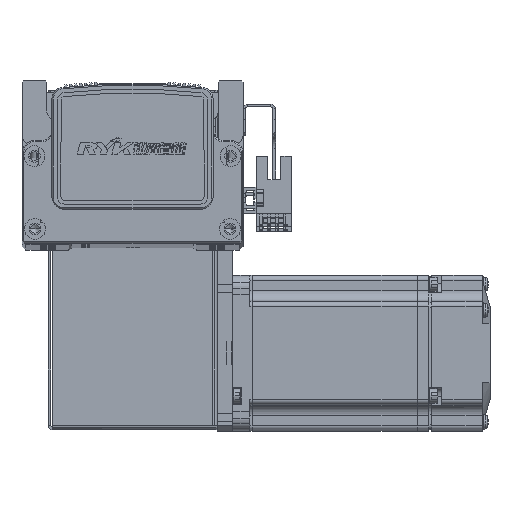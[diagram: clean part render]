
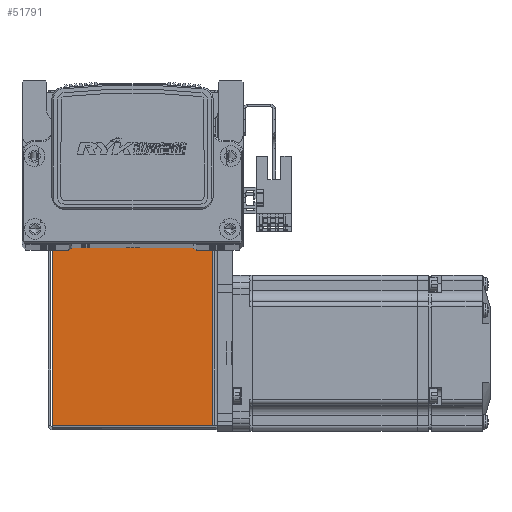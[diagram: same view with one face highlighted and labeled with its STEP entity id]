
A CAD part, top view. The second image highlights one B-rep face of the part: STEP entity #51791.
In plain terms, the highlighted planar face has unit normal (0, 0, 1).
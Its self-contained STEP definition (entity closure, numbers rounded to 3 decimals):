
#19245 = VECTOR ( 'NONE', #38905, 1000. ) ;
#19247 = LINE ( 'NONE', #38858, #19253 ) ;
#19253 = VECTOR ( 'NONE', #38857, 1000. ) ;
#19269 = LINE ( 'NONE', #38903, #19245 ) ;
#19307 = VECTOR ( 'NONE', #38833, 1000. ) ;
#19337 = VECTOR ( 'NONE', #38823, 1000. ) ;
#19343 = LINE ( 'NONE', #38849, #19337 ) ;
#19352 = LINE ( 'NONE', #38841, #19307 ) ;
#32856 = FACE_OUTER_BOUND ( 'NONE', #66820, .T. ) ;
#35927 = DIRECTION ( 'NONE',  ( -1., 0., 0. ) ) ;
#35950 = PLANE ( 'NONE',  #51019 ) ;
#35970 = CARTESIAN_POINT ( 'NONE',  ( 0., 0., 35. ) ) ;
#35991 = DIRECTION ( 'NONE',  ( 0., 0., -1. ) ) ;
#38823 = DIRECTION ( 'NONE',  ( -1., 0., 0. ) ) ;
#38833 = DIRECTION ( 'NONE',  ( -1., 0., 0. ) ) ;
#38841 = CARTESIAN_POINT ( 'NONE',  ( 0., 72.5, 35. ) ) ;
#38849 = CARTESIAN_POINT ( 'NONE',  ( -32.5, 0.737, 35. ) ) ;
#38857 = DIRECTION ( 'NONE',  ( 0., 1., 0. ) ) ;
#38858 = CARTESIAN_POINT ( 'NONE',  ( -30.793, 0., 35. ) ) ;
#38903 = CARTESIAN_POINT ( 'NONE',  ( 30.763, 0.737, 35. ) ) ;
#38905 = DIRECTION ( 'NONE',  ( 0., 1., 0. ) ) ;
#44308 = ORIENTED_EDGE ( 'NONE', *, *, #72768, .F. ) ;
#44387 = ORIENTED_EDGE ( 'NONE', *, *, #72758, .F. ) ;
#51019 = AXIS2_PLACEMENT_3D ( 'NONE', #35970, #35991, #35927 ) ;
#51791 = ADVANCED_FACE ( 'NONE', ( #32856 ), #35950, .F. ) ;
#55803 = ORIENTED_EDGE ( 'NONE', *, *, #72760, .T. ) ;
#55833 = ORIENTED_EDGE ( 'NONE', *, *, #72784, .T. ) ;
#66820 = EDGE_LOOP ( 'NONE', ( #55833, #55803, #44308, #44387 ) ) ;
#68204 = VERTEX_POINT ( 'NONE', #74304 ) ;
#68208 = VERTEX_POINT ( 'NONE', #74342 ) ;
#68221 = VERTEX_POINT ( 'NONE', #74371 ) ;
#68238 = VERTEX_POINT ( 'NONE', #74350 ) ;
#72758 = EDGE_CURVE ( 'NONE', #68204, #68208, #19343, .T. ) ;
#72760 = EDGE_CURVE ( 'NONE', #68221, #68238, #19352, .T. ) ;
#72768 = EDGE_CURVE ( 'NONE', #68208, #68238, #19247, .T. ) ;
#72784 = EDGE_CURVE ( 'NONE', #68204, #68221, #19269, .T. ) ;
#74304 = CARTESIAN_POINT ( 'NONE',  ( 30.763, 0.737, 35. ) ) ;
#74342 = CARTESIAN_POINT ( 'NONE',  ( -30.793, 0.737, 35. ) ) ;
#74350 = CARTESIAN_POINT ( 'NONE',  ( -30.793, 72.5, 35. ) ) ;
#74371 = CARTESIAN_POINT ( 'NONE',  ( 30.763, 72.5, 35. ) ) ;
